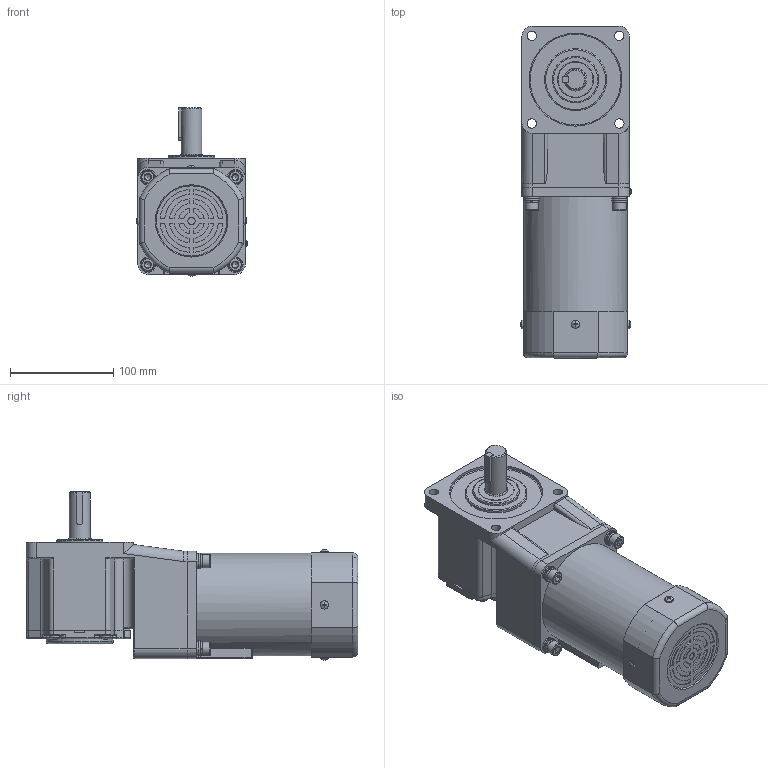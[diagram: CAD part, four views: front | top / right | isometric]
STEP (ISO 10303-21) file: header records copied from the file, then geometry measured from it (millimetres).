
FILE_DESCRIPTION(/* description */ (''),/* implementation_level */ '2;1');
FILE_NAME(/* name */ '100+直角中实-阻尼风叶-140W.stp',/* time_stamp */ '2022-11-01T13:53:16+08:00',/* author */ (''),/* organization */ (''),/* preprocessor_version */ 'ST-DEVELOPER v16.7',/* originating_system */ 'SIEMENS PLM Software NX 1899',/* authorisation */ '');
FILE_SCHEMA (('AP203_CONFIGURATION_CONTROLLED_3D_DESIGN_OF_MECHANICAL_PARTS_AND_ASSEMBLIES_MIM_LF { 1 0 10303 403 2 1 2}'));
Length unit declared in the file: millimetre
Products named in the file (1): yf1854BC0762nkbo
Bounding box: 107.82 x 321.5 x 162.95 mm (x, y, z)
Volume: 2840931.9 mm3; surface area: 211442 mm2
Topology: 16 solids, 16 shells, 740 faces, 1752 edges, 1097 vertices
Faces by surface type: plane 418, cylinder 216, torus 54, cone 43, bspline 5, sphere 4
Full cylindrical faces by diameter (mm): 5.6 x1, 6 x8, 6.8 x4, 7 x1, 7.76 x4, 8 x4, 8.4 x4, 9 x8, 9.5 x4, 13 x4, 14 x4, 15 x4, 20 x1, 22 x1, 35 x1, 45 x1, 60 x1, 65 x1, 77 x1, 90 x1, 98 x2, 100 x1
Entity records: 22265 total; most frequent: CARTESIAN_POINT 4328, DIRECTION 3562, ORIENTED_EDGE 3196, EDGE_CURVE 1598, AXIS2_PLACEMENT_3D 1363, VERTEX_POINT 1052, EDGE_LOOP 918, LINE 836
